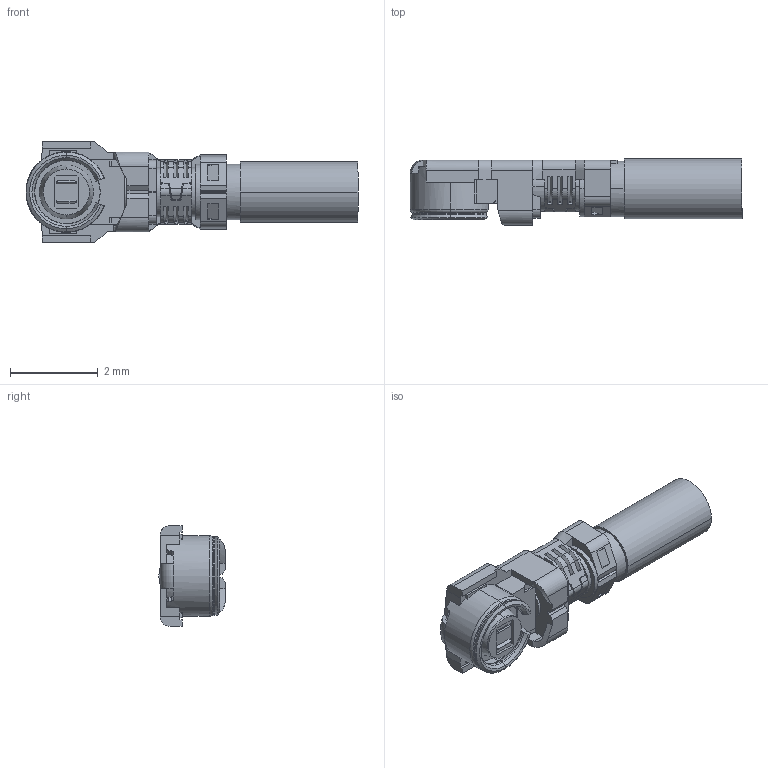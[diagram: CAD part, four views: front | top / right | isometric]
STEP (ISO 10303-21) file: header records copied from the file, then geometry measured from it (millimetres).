
FILE_DESCRIPTION (( 'STEP AP203' ), '1' );
FILE_NAME ('20632-001R-37C PLUG STEP R1 ALL.STEP', '2018-04-23T09:11:43', ( '' ), ( '' ), 'SwSTEP 2.0', 'SolidWorks 2017', '' );
FILE_SCHEMA (( 'CONFIG_CONTROL_DESIGN' ));
Length unit declared in the file: millimetre
Products named in the file (1): 20632-001R-37C PLUG STEP R1 ALL
Bounding box: 7.57 x 1.51 x 2.3 mm (x, y, z)
Volume: 12.9 mm3; surface area: 52.8 mm2
Topology: 1 solids, 1 shells, 356 faces, 935 edges, 593 vertices
Faces by surface type: plane 214, cylinder 90, cone 31, torus 13, bspline 8
Entity records: 11435 total; most frequent: CARTESIAN_POINT 2699, ORIENTED_EDGE 1870, DIRECTION 1731, EDGE_CURVE 935, LINE 635, VECTOR 635, VERTEX_POINT 593, AXIS2_PLACEMENT_3D 548
